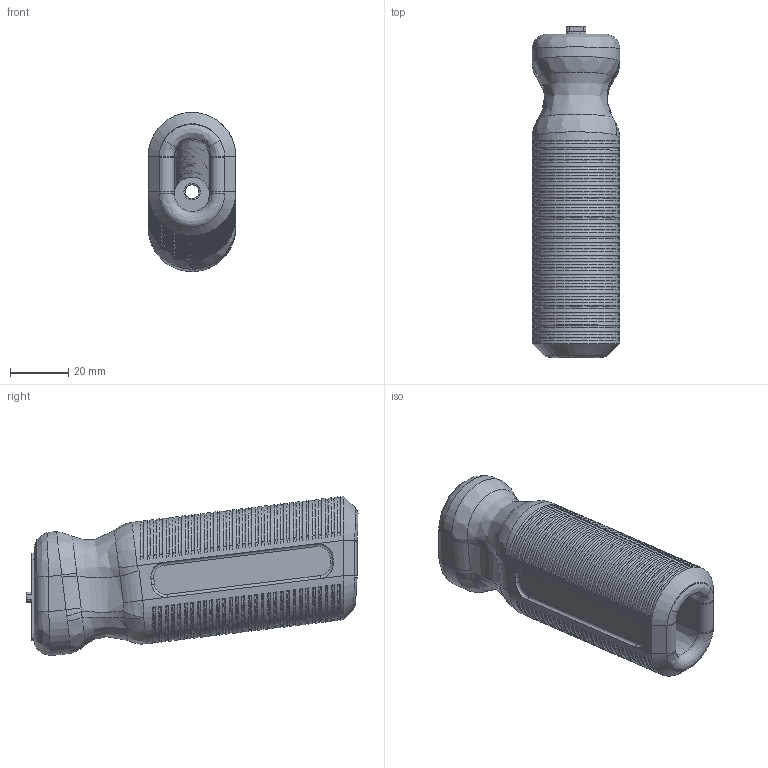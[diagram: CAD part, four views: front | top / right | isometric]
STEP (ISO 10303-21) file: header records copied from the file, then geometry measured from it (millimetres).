
FILE_DESCRIPTION(/* description */ (''),/* implementation_level */ '2;1');
FILE_NAME(/* name */ '//vboxsvr/bigsql-win-testing/CAD/ar15-foregrip-accessory-pack/STEP/foregrip-mlok-freeman1337.step',/* time_stamp */ '2021-04-05T12:09:24-07:00',/* author */ (''),/* organization */ (''),/* preprocessor_version */ 'ST-DEVELOPER v18.1',/* originating_system */ 'Autodesk Translation Framework v9.10.0.1330',/* authorisation */ '');
FILE_SCHEMA (('AUTOMOTIVE_DESIGN { 1 0 10303 214 3 1 1 }'));
Length unit declared in the file: millimetre
Products named in the file (1): foregrip-mlok
Bounding box: 30 x 113.72 x 54.62 mm (x, y, z)
Volume: 80340.9 mm3; surface area: 22392 mm2
Topology: 1 solids, 1 shells, 511 faces, 1294 edges, 788 vertices
Faces by surface type: cylinder 218, bspline 190, plane 87, torus 16
Full cylindrical faces by diameter (mm): 4.65 x2
Entity records: 29128 total; most frequent: CARTESIAN_POINT 19010, ORIENTED_EDGE 2468, DIRECTION 1340, EDGE_CURVE 1234, VERTEX_POINT 788, B_SPLINE_CURVE_WITH_KNOTS 712, EDGE_LOOP 578, FACE_OUTER_BOUND 511
